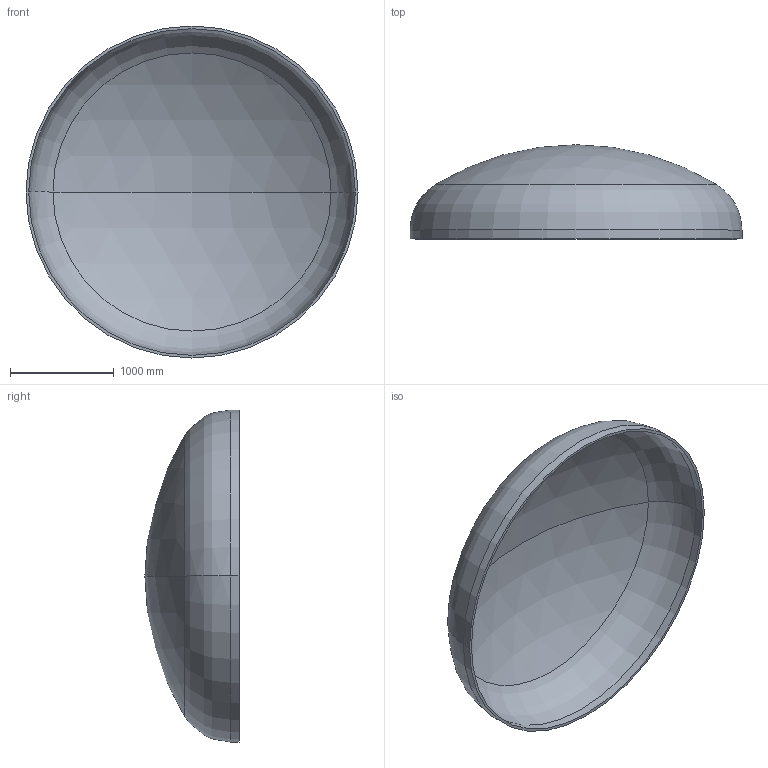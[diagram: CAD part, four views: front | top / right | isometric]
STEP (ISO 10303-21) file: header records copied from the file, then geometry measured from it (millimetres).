
FILE_DESCRIPTION (( 'STEP AP203' ), '1' );
FILE_NAME ('DIN 28013 Korbbogenform_-_Boden DIN 28013 - 3200 x 85 - I - s=26.step', '2016-07-01T18:27:44', ( '' ), ( '' ), 'SwSTEP 2.0', 'SolidWorks 2013', '' );
FILE_SCHEMA (( 'CONFIG_CONTROL_DESIGN' ));
Length unit declared in the file: millimetre
Products named in the file (1): DIN 28013 Korbbogenform_-_Boden DIN 28013 - 3200 x 85 - I - s=26
Bounding box: 3200 x 907.52 x 3200 mm (x, y, z)
Volume: 308231636 mm3; surface area: 23970789.5 mm2
Topology: 1 solids, 1 shells, 13 faces, 24 edges, 14 vertices
Faces by surface type: torus 4, cylinder 4, sphere 4, plane 1
Entity records: 407 total; most frequent: DIRECTION 72, CARTESIAN_POINT 52, ORIENTED_EDGE 48, AXIS2_PLACEMENT_3D 34, EDGE_CURVE 24, CIRCLE 20, EDGE_LOOP 14, VERTEX_POINT 14
